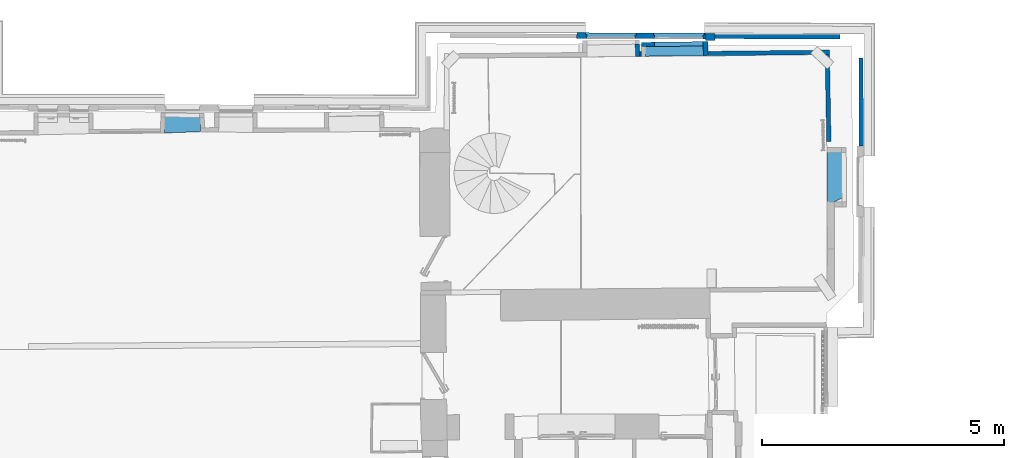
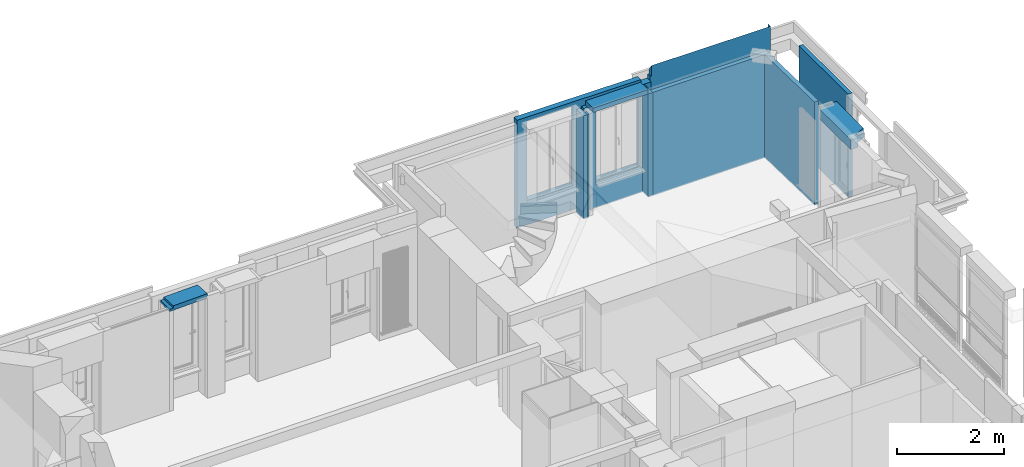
# One storey, part 24 of 72: 13 walls, 3 openings.
"""IFC2X3 building model written with IfcOpenShell, lengths in centimetres."""

from ifc_helpers import new_model, entity, si_unit, converted_unit, direction, frame, origin, origin_with_axes, origin_2d_with_axis, place, context, subcontext, project, spatial, polyline, rectangle, outline, extrude, clip, bounded_halfspace, faceted_brep, shape, material, layer, layer_set, layer_usage, type_object, element, save


model = new_model("IFC2X3")

# Units and contexts
model_context = context("Model", 3, precision=0.0001, world=origin(), true_north=direction((0.225632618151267, 0.974212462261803, 0.0)))
body_context = subcontext(model_context, "Body", "Model", "MODEL_VIEW")
footprint_context = subcontext(model_context, "FootPrint", "Model", "MODEL_VIEW")
profile_context = subcontext(model_context, "Profile", "Model", "MODEL_VIEW")
ifc_project = project(units=[si_unit("LENGTHUNIT", "METRE", prefix="CENTI"), si_unit("AREAUNIT", "SQUARE_METRE", prefix="CENTI"), si_unit("VOLUMEUNIT", "CUBIC_METRE", prefix="CENTI"), converted_unit("PLANEANGLEUNIT", "DEGREE", entity("IfcRatioMeasure", 0.0174532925), si_unit("PLANEANGLEUNIT", "RADIAN"), dimensions=[0, 0, 0, 0, 0, 0, 0])], contexts=[model_context])

# Site, building, storey
site_placement = place(None, origin_with_axes())
site = spatial("IfcSite", under=ifc_project, at=site_placement, Name="Default Site", CompositionType="ELEMENT")
building_placement = place(site_placement, origin_with_axes())
building = spatial("IfcBuilding", under=site, at=building_placement, Name="Default Building", CompositionType="ELEMENT")
storey_placement = place(building_placement, frame((0.0, 0.0, 853.910374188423), z_axis=(0.0, 0.0, 1.0), x_axis=(1.0, 0.0, 0.0)))
storey = spatial("IfcBuildingStorey", under=building, at=storey_placement, Name="Niveau 2", CompositionType="ELEMENT", Elevation=853.910374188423)

# Walls
ifc_material = material(Name="<aucun>")
ifc_layer_1 = layer(ifc_material, 9.0)
ifc_layer_set_1 = layer_set([ifc_layer_1], Name="default")
ifc_layer_usage_1 = layer_usage(ifc_layer_set_1, "AXIS2", "POSITIVE", -4.5)
wall_type_1 = type_object("IfcWallType", Name="default 90", PredefinedType="NOTDEFINED", material=ifc_layer_set_1)
wall_1_placement = place(storey_placement, frame((1145.18182000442, 525.971234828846, -1.95399252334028e-11), z_axis=(0.0, 0.0, 1.0), x_axis=(-0.00385021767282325, 0.999992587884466, 0.0)))
element("IfcWallStandardCase", 1, at=wall_1_placement, inside=storey, type_object=wall_type_1, material=ifc_layer_usage_1, Name="Enveloppe 463583", context=body_context, shape_type="SweptSolid", body=[
    extrude(rectangle(XDim=8.9999955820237, YDim=182.306273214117, at=origin_2d_with_axis()), frame((91.1877773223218, 2.86267596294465e-06, 1.98951966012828e-11), z_axis=(0.0, 0.0, 1.0), x_axis=(-0.000129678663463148, -0.999999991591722, 0.0)), (0.0, 0.0, 1.0), 234.999999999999),
])
ifc_layer_usage_2 = layer_usage(ifc_layer_set_1, "AXIS2", "POSITIVE", -4.5)
wall_2_placement = place(storey_placement, frame((1101.58579379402, 751.852301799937, -1.95399252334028e-11), z_axis=(0.0, 0.0, 1.0), x_axis=(-0.9999942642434, 0.0033869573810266, 0.0)))
solid = clip(clip(clip(clip(clip(clip(clip(clip(extrude(rectangle(XDim=8.99999999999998, YDim=258.4143205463, at=origin_2d_with_axis()), frame((129.238549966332, 0.000156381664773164, 2.00728322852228e-11), z_axis=(0.0, 0.0, 1.0), x_axis=(0.0, -1.0, 0.0)), (0.0, 0.0, 1.0), 268.938855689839), bounded_halfspace(frame((258.35336731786, 4.49999999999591, 235.000000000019), z_axis=(0.0, 0.0, 1.0), x_axis=(1.0, 4.99341453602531e-13, 0.0)), True, frame((258.35336731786, 4.49999999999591, 235.000000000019), z_axis=(0.0, 0.0, 1.0), x_axis=(1.0, 0.0, 0.0)), polyline([(1.77635683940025e-13, -8.9999999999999), (1.77635683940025e-13, 0.0), (0.0923439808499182, -8.88178419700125e-14), (0.0923439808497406, -8.9999999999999), (1.77635683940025e-13, -8.9999999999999)]))), bounded_halfspace(frame((247.127500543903, 4.499999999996, 268.510598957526), z_axis=(-0.000928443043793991, 0.844411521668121, -0.535694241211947), x_axis=(0.000330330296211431, -0.535694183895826, -0.844412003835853)), True, frame((247.127500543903, 4.499999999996, 268.510598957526), z_axis=(0.0, 0.0, 1.0), x_axis=(1.0, 0.0, 0.0)), polyline([(0.00554975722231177, -8.99999999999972), (8.67745203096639, -9.00000000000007), (8.65441892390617, -8.88178419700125e-14), (3.5527136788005e-13, -8.88178419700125e-14), (0.00554975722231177, -8.99999999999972)]))), bounded_halfspace(frame((0.0313896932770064, 4.4999999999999, 268.938855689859), z_axis=(-0.000928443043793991, 0.844411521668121, -0.535694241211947), x_axis=(0.00156870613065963, 0.535695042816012, 0.844410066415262)), True, frame((0.0313896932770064, 4.4999999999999, 268.938855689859), z_axis=(0.0, 0.0, 1.0), x_axis=(1.0, 0.0, 0.0)), polyline([(0.0, -9.00000000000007), (0.0263552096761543, 8.88178419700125e-14), (0.0, -8.88178419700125e-14), (0.0, -9.00000000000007)]))), bounded_halfspace(frame((232.822617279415, 3.81789347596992, 267.460191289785), z_axis=(-0.000928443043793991, 0.844411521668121, -0.535694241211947), x_axis=(0.999998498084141, 6.82377331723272e-13, -0.00173315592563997)), True, frame((232.822617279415, 3.81789347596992, 267.460191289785), z_axis=(0.0, 0.0, 1.0), x_axis=(1.0, 0.0, 0.0)), polyline([(-1.77635683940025e-13, -8.31789347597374), (14.3104330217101, -8.31789347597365), (14.3053297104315, -0.0418915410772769), (1.77635683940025e-13, 0.0), (-1.77635683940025e-13, -8.31789347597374)]))), bounded_halfspace(frame((0.0445659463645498, -0.000461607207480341, 261.844783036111), z_axis=(-0.000928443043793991, 0.844411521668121, -0.535694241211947), x_axis=(0.999998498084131, -1.00739351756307e-11, -0.00173315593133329)), True, frame((0.0445659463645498, -0.000461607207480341, 261.844783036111), z_axis=(0.0, 0.0, 1.0), x_axis=(1.0, 0.0, 0.0)), polyline([(-0.0131762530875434, -4.49953839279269), (-1.36509825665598e-07, -4.49953839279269), (1.77635683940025e-13, 0.0), (-0.0131762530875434, -4.49953839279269)]))), bounded_halfspace(frame((0.0577449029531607, 4.49999999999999, 268.938810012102), z_axis=(-0.000928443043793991, 0.844411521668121, -0.535694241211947), x_axis=(-0.999975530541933, 0.00293038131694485, 0.00635225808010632)), True, frame((0.0577449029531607, 4.49999999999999, 268.938810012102), z_axis=(0.0, 0.0, 1.0), x_axis=(1.0, 0.0, 0.0)), polyline([(-0.0131790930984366, -9.00000000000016), (232.764872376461, -9.0000000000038), (232.764872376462, -0.682106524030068), (0.0, 0.0), (-0.0131790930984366, -9.00000000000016)]))), bounded_halfspace(frame((0.0577449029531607, 4.49999999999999, 268.938810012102), z_axis=(-0.000928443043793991, 0.844411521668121, -0.535694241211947), x_axis=(0.999975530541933, -0.00293038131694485, -0.00635225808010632)), True, frame((0.0577449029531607, 4.49999999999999, 268.938810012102), z_axis=(0.0, 0.0, 1.0), x_axis=(1.0, 0.0, 0.0)), polyline([(0.0, 0.0), (247.070202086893, -0.723998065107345), (247.06975564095, -4.08562073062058e-12), (0.0, 0.0)]))), bounded_halfspace(frame((258.35336731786, 4.49999999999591, 245.000000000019), z_axis=(0.0, 0.0, -1.0), x_axis=(-1.0, -6.357327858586e-15, 0.0)), True, frame((258.35336731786, 4.49999999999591, 245.000000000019), z_axis=(0.0, 0.0, 1.0), x_axis=(1.0, 0.0, 0.0)), polyline([(-2.5714478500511, 0.0), (-2.54841474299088, -8.99999999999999), (1.77635683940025e-13, -8.9999999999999), (1.77635683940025e-13, 0.0), (-2.5714478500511, 0.0)])))
element("IfcWallStandardCase", 2, at=wall_2_placement, inside=storey, type_object=wall_type_1, material=ifc_layer_usage_2, Name="Enveloppe 463685", context=body_context, shape_type="Clipping", body=[
    clip(solid, bounded_halfspace(frame((258.35336731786, -4.50000000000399, 245.000000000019), z_axis=(0.0, 0.0, -1.0), x_axis=(1.0, -4.62468605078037e-13, 0.0)), True, frame((258.35336731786, -4.50000000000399, 245.000000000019), z_axis=(0.0, 0.0, 1.0), x_axis=(1.0, 0.0, 0.0)), polyline([(1.77635683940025e-13, 0.0), (0.0923439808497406, 0.0), (0.0923439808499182, 8.99999999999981), (1.77635683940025e-13, 8.9999999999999), (1.77635683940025e-13, 0.0)]))),
])
ifc_layer_usage_3 = layer_usage(ifc_layer_set_1, "AXIS2", "POSITIVE", -4.5)
wall_3_placement = place(storey_placement, frame((682.886872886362, 712.396064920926, 1.4210854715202e-12), z_axis=(0.0, 0.0, 1.0), x_axis=(-0.026493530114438, 0.999648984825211, 0.0)))
element("IfcWallStandardCase", 3, at=wall_3_placement, inside=storey, type_object=wall_type_1, material=ifc_layer_usage_3, Name="Enveloppe 177735", context=body_context, shape_type="SweptSolid", body=[
    extrude(outline(polyline([(24.482831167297, 4.4999999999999), (-0.707261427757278, 4.50000000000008), (-0.857965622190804, -4.50000000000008), (24.3844119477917, -4.4999999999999), (24.482831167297, 4.4999999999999)])), frame((0.0, 0.0, -8.88178419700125e-13), z_axis=(0.0, 0.0, 1.0), x_axis=(1.0, 0.0, 0.0)), (0.0, 0.0, 1.0), 234.999999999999),
])
ifc_layer_usage_4 = layer_usage(ifc_layer_set_1, "AXIS2", "POSITIVE", -4.5)
wall_4_placement = place(storey_placement, frame((678.113645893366, 716.067181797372, 1.4210854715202e-12), z_axis=(0.0, 0.0, 1.0), x_axis=(0.999952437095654, 0.00975313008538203, 0.0)))
element("IfcWallStandardCase", 4, at=wall_4_placement, inside=storey, type_object=wall_type_1, material=ifc_layer_usage_4, Name="Enveloppe 178562", context=body_context, shape_type="SweptSolid", body=[
    extrude(outline(polyline([(9.10022468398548, 4.49999999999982), (9.25092887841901, -4.50000000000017), (12.6027819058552, -4.50000000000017), (12.6027819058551, 4.49999999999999), (9.10022468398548, 4.49999999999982)])), frame((0.0, 0.0, 5.32907051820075e-13), z_axis=(0.0, 0.0, 1.0), x_axis=(1.0, 0.0, 0.0)), (0.0, 0.0, 1.0), 234.999999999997),
])

# Wall, opening
ifc_layer_usage_5 = layer_usage(ifc_layer_set_1, "AXIS2", "POSITIVE", -4.5)
wall_5_placement = place(storey_placement, frame((699.879282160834, 736.158901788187, 1.06581410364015e-12), z_axis=(0.0, 0.0, 1.0), x_axis=(0.999926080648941, 0.0121586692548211, 0.0)))
wall_5 = element("IfcWallStandardCase", 5, at=wall_5_placement, inside=storey, type_object=wall_type_1, material=ifc_layer_usage_5, Name="Enveloppe 177846", context=body_context, shape_type="SweptSolid", body=[
    extrude(outline(polyline([(-9.11544507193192, -4.49999999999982), (118.481027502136, -4.4999999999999), (118.496048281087, 4.50000000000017), (-8.88389420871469, 4.50000000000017), (-9.11544507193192, -4.49999999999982)])), origin_with_axes(), (0.0, 0.0, 1.0), 234.999999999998),
])
opening_1_placement = place(wall_5_placement, frame((17.5208397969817, 0.0, 54.9999999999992), z_axis=(0.0, 0.0, 1.0), x_axis=(-1.0, -8.32667268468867e-16, 0.0)))
cartesian_point_1 = entity("IfcCartesianPoint", [0.0, -8.88178419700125e-14, 170.0])
cartesian_point_2 = entity("IfcCartesianPoint", [-100.84034085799, -4.50000000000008])
element("IfcOpeningElement", 6, at=opening_1_placement, cuts=wall_5, Name="4294966528_11", ObjectType="Opening", shapes=[
    shape(body_context, "Body", "SweptSolid", [extrude(outline(polyline([(-8.88178419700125e-14, 170.0), (-8.88178419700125e-14, -2.99999999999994), (100.84034085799, -2.99999999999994), (100.84034085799, 170.0), (-8.88178419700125e-14, 170.0)])), frame((0.0, -14.5, 0.0), z_axis=(0.0, 1.0, 0.0), x_axis=(-1.0, 0.0, 0.0)), (0.0, 0.0, 1.0), 29.0)]),
    shape(profile_context, "Profile", "GeometricCurveSet", [entity("IfcGeometricCurveSet", [entity("IfcPolyline", [cartesian_point_1, entity("IfcCartesianPoint", [0.0, -8.88178419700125e-14, 0.0]), entity("IfcCartesianPoint", [-100.84034085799, -8.88178419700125e-14, 0.0]), entity("IfcCartesianPoint", [-100.84034085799, -8.88178419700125e-14, 170.0]), cartesian_point_1])])]),
    shape(footprint_context, "FootPrint", "GeometricCurveSet", [entity("IfcGeometricCurveSet", [entity("IfcPolyline", [cartesian_point_2, entity("IfcCartesianPoint", [8.88178419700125e-14, -4.50000000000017]), entity("IfcCartesianPoint", [8.88178419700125e-14, 4.49999999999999]), entity("IfcCartesianPoint", [-100.840340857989, 4.4999999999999]), cartesian_point_2])])]),
])

# Walls
ifc_layer_usage_6 = layer_usage(ifc_layer_set_1, "AXIS2", "POSITIVE", -4.5)
wall_6_placement = place(storey_placement, frame((828.5723250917, 717.400266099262, 1.06581410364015e-12), z_axis=(0.0, 0.0, 1.0), x_axis=(0.999946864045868, 0.0103086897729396, 0.0)))
element("IfcWallStandardCase", 7, at=wall_6_placement, inside=storey, type_object=wall_type_1, material=ifc_layer_usage_6, Name="Enveloppe 149961", context=body_context, shape_type="SweptSolid", body=[
    extrude(outline(polyline([(-0.00163010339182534, 4.49999999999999), (-0.00163010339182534, -4.50000000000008), (250.82751742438, -4.50000000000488), (250.756113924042, 4.49999999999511), (-0.00163010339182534, 4.49999999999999)])), frame((0.0, 0.0, -7.105427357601e-13), z_axis=(0.0, 0.0, 1.0), x_axis=(1.0, 0.0, 0.0)), (0.0, 0.0, 1.0), 234.999999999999),
])
ifc_layer_usage_7 = layer_usage(ifc_layer_set_1, "AXIS2", "POSITIVE", -4.5)
wall_7_placement = place(storey_placement, frame((1078.21979787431, 535.286601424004, 1.4210854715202e-12), z_axis=(0.0, 0.0, 1.0), x_axis=(-0.0182414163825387, 0.999833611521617, 0.0)))
element("IfcWallStandardCase", 8, at=wall_7_placement, inside=storey, type_object=wall_type_1, material=ifc_layer_usage_7, Name="Enveloppe 150023", context=body_context, shape_type="SweptSolid", body=[
    extrude(outline(polyline([(180.218898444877, 4.50000000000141), (0.0, 4.49999999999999), (0.0, -4.50000000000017), (180.147494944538, -4.49999999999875), (180.218898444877, 4.50000000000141)])), frame((0.0, 0.0, 1.77635683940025e-13), z_axis=(0.0, 0.0, 1.0), x_axis=(1.0, 0.0, 0.0)), (0.0, 0.0, 1.0), 234.999999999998),
])

# Wall, openings
ifc_layer_2 = layer(ifc_material, 12.0)
ifc_layer_set_2 = layer_set([ifc_layer_2], Name="default")
ifc_layer_usage_8 = layer_usage(ifc_layer_set_2, "AXIS2", "POSITIVE", -6.0)
wall_type_2 = type_object("IfcWallType", Name="default 120", PredefinedType="NOTDEFINED", material=ifc_layer_set_2)
wall_8_placement = place(storey_placement, frame((823.225667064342, 753.763191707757, -1.95399252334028e-11), z_axis=(0.0, 0.0, 1.0), x_axis=(-0.999996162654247, 0.00277032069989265, 0.0)))
wall_8 = element("IfcWallStandardCase", 9, at=wall_8_placement, inside=storey, type_object=wall_type_2, material=ifc_layer_usage_8, Name="Enveloppe 734961", context=body_context, shape_type="Clipping", body=[
    clip(extrude(rectangle(XDim=12.0, YDim=266.272513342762, at=origin_2d_with_axis()), frame((133.136256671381, -3.5527136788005e-13, 1.95399252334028e-11), z_axis=(0.0, 0.0, 1.0), x_axis=(-4.33680868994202e-19, -1.0, 0.0)), (0.0, 0.0, 1.0), 244.999999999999), bounded_halfspace(frame((1.77635683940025e-13, -6.00000000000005, 235.000000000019), z_axis=(0.0, 0.0, 1.0), x_axis=(-9.1547429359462e-14, 1.0, 0.0)), True, frame((1.77635683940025e-13, -6.00000000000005, 235.000000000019), z_axis=(0.0, 0.0, 1.0), x_axis=(1.0, 0.0, 0.0)), polyline([(1.77635683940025e-13, 0.0), (1.77635683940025e-13, 11.9999999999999), (0.55107363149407, 11.9999999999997), (0.551073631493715, 0.0), (1.77635683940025e-13, 0.0)]))),
])
opening_2_placement = place(wall_8_placement, frame((2.49478627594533, 2.27373675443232e-13, 49.8341513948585), z_axis=(0.0, 0.0, 1.0), x_axis=(-1.0, 2.62767238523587e-15, 0.0)))
cartesian_point_3 = entity("IfcCartesianPoint", [3.5527136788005e-13, 8.88178419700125e-14, 184.527319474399])
cartesian_point_4 = entity("IfcCartesianPoint", [-105.547886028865, -5.99999999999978])
element("IfcOpeningElement", 10, at=opening_2_placement, cuts=wall_8, Name="Baie 736907", ObjectType="Opening", shapes=[
    shape(body_context, "Body", "Brep", [faceted_brep([(-2.99997236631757, -25.9999836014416, 184.527283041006), (-102.547883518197, -25.9999836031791, 184.527283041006), (-102.547883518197, -25.9999836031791, -1.87473244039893e-05), (-2.99997236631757, -25.9999836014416, -1.87473244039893e-05), (-3.93373086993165e-05, 25.9999894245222, -1.87473244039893e-05), (-105.547872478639, 25.99998942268, -1.87473244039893e-05), (-105.547872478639, 25.99998942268, 184.527283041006), (-3.93373086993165e-05, 25.9999894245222, 184.527283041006), (-2.99997236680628, 2.00000167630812, -1.87473244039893e-05), (-2.99997236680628, 2.00000167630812, 184.527283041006), (-3.00000758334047, 2.00000167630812, 184.527283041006), (-3.00000758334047, 2.00000167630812, -1.87473244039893e-05), (-2.28128980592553e-05, 2.00000167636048, -1.87473244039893e-05), (-2.28128980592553e-05, 2.00000167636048, 184.527283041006), (-2.28128980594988e-05, 2.00001562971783, 184.527283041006), (-2.28128980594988e-05, 2.00001562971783, -1.87473244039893e-05), (-2.28133169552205e-05, 25.9999894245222, -1.87473244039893e-05), (-2.28133169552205e-05, 25.9999894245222, 184.527283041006), (-102.547883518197, -26.0000083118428, -1.87473244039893e-05), (-102.547871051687, 1.99997709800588, -1.87473244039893e-05), (-105.547903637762, 2.00001069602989, -1.87473244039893e-05), (-105.547872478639, 25.9999846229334, -1.87473244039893e-05), (-102.547883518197, -26.0000083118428, 184.527283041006), (-102.547883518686, 1.99997709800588, 184.527283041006), (-102.547883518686, 1.99997709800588, -1.87473244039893e-05), (-102.547871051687, 1.99997709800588, 184.527283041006), (-105.547903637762, 1.99997709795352, 184.527283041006), (-105.547903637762, 1.99997709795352, -1.87473244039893e-05), (-105.547903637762, 2.00001069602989, 184.527283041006), (-105.547903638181, 25.9999846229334, 184.527283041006), (-105.547903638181, 25.9999846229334, -1.87473244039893e-05), (-105.547872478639, 25.9999846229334, 184.527283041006)], [[[0, 1, 2, 3]], [[4, 5, 6, 7]], [[0, 3, 8, 9]], [[10, 11, 12, 13]], [[14, 15, 16, 17]], [[3, 18, 19, 20, 21, 4, 15, 11]], [[18, 22, 23, 24]], [[19, 25, 26, 27]], [[20, 28, 29, 30]], [[10, 14, 7, 31, 28, 25, 22, 0]]])]),
    shape(profile_context, "Profile", "GeometricCurveSet", [entity("IfcGeometricCurveSet", [entity("IfcPolyline", [cartesian_point_3, entity("IfcCartesianPoint", [3.5527136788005e-13, 8.88178419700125e-14, 0.0]), entity("IfcCartesianPoint", [-105.547886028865, 1.77635683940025e-13, 0.0]), entity("IfcCartesianPoint", [-105.547886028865, 1.77635683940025e-13, 184.527319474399]), cartesian_point_3])])]),
    shape(footprint_context, "FootPrint", "GeometricCurveSet", [entity("IfcGeometricCurveSet", [entity("IfcPolyline", [cartesian_point_4, entity("IfcCartesianPoint", [5.32907051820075e-13, -5.99999999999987]), entity("IfcCartesianPoint", [3.5527136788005e-13, 6.00000000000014]), entity("IfcCartesianPoint", [-105.547886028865, 6.00000000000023]), cartesian_point_4])])]),
])
opening_3_placement = place(wall_8_placement, frame((142.964138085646, -3.41060513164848e-13, 55.0000000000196), z_axis=(0.0, 0.0, 1.0), x_axis=(-1.0, 2.62767238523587e-15, 0.0)))
cartesian_point_5 = entity("IfcCartesianPoint", [3.5527136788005e-13, 8.88178419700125e-14, 180.00001475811])
cartesian_point_6 = entity("IfcCartesianPoint", [-104.877018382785, -5.99999999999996])
element("IfcOpeningElement", 11, at=opening_3_placement, cuts=wall_8, Name="Baie 736908", ObjectType="Opening", shapes=[
    shape(body_context, "Body", "Brep", [faceted_brep([(-2.99999542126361, -25.9999820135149, 180.00001475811), (-101.877041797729, -25.9999820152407, 180.00001475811), (-101.877041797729, -25.9999820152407, -4.31537632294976e-06), (-2.99999542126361, -25.9999820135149, -4.31537632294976e-06), (-1.47087218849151e-05, 25.999991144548, -4.31537632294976e-06), (-104.877030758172, 25.9999911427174, -4.31537632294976e-06), (-104.877030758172, 25.9999911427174, 180.00001475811), (-1.47087218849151e-05, 25.999991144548, 180.00001475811), (-2.99999542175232, 2.00000339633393, -4.31537632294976e-06), (-2.99999542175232, 2.00000339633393, 180.00001475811), (-2.99998295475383, 2.00000339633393, 180.00001475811), (-2.99998295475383, 2.00000339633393, -4.31537632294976e-06), (1.81568866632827e-06, 2.00000339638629, -4.31537632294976e-06), (1.81568866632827e-06, 2.00000339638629, 180.00001475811), (1.81568866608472e-06, 2.00001734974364, 180.00001475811), (1.81568866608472e-06, 2.00001734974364, -4.31537632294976e-06), (1.81526977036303e-06, 25.999991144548, -4.31537632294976e-06), (1.81526977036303e-06, 25.999991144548, 180.00001475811), (-101.877041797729, -26.0000078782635, -4.31537632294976e-06), (-101.877029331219, 1.99997753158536, -4.31537632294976e-06), (-104.877014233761, 2.00001126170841, -4.31537632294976e-06), (-104.877030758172, 25.9999850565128, -4.31537632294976e-06), (-101.877041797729, -26.0000078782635, 180.00001475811), (-101.877041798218, 1.99997753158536, 180.00001475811), (-101.877041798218, 1.99997753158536, -4.31537632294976e-06), (-101.877029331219, 1.99997753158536, 180.00001475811), (-104.877014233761, 1.999977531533, 180.00001475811), (-104.877014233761, 1.999977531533, -4.31537632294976e-06), (-104.877014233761, 2.00001126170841, 180.00001475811), (-104.87701423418, 25.9999850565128, 180.00001475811), (-104.87701423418, 25.9999850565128, -4.31537632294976e-06), (-104.877030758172, 25.9999850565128, 180.00001475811)], [[[0, 1, 2, 3]], [[4, 5, 6, 7]], [[0, 3, 8, 9]], [[10, 11, 12, 13]], [[14, 15, 16, 17]], [[3, 18, 19, 20, 21, 4, 15, 11]], [[18, 22, 23, 24]], [[19, 25, 26, 27]], [[20, 28, 29, 30]], [[10, 14, 7, 31, 28, 25, 22, 0]]])]),
    shape(profile_context, "Profile", "GeometricCurveSet", [entity("IfcGeometricCurveSet", [entity("IfcPolyline", [cartesian_point_5, entity("IfcCartesianPoint", [3.5527136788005e-13, 8.88178419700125e-14, -1.77635683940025e-13]), entity("IfcCartesianPoint", [-104.877018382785, 8.88178419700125e-14, -1.77635683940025e-13]), entity("IfcCartesianPoint", [-104.877018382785, 8.88178419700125e-14, 180.00001475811]), cartesian_point_5])])]),
    shape(footprint_context, "FootPrint", "GeometricCurveSet", [entity("IfcGeometricCurveSet", [entity("IfcPolyline", [cartesian_point_6, entity("IfcCartesianPoint", [2.66453525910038e-13, -5.99999999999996]), entity("IfcCartesianPoint", [2.66453525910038e-13, 6.00000000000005]), entity("IfcCartesianPoint", [-104.877018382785, 6.00000000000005]), cartesian_point_6])])]),
])

# Walls
ifc_layer_3 = layer(ifc_material, 10.0)
ifc_layer_set_3 = layer_set([ifc_layer_3], Name="default")
ifc_layer_usage_9 = layer_usage(ifc_layer_set_3, "AXIS2", "POSITIVE", -5.0)
wall_type_3 = type_object("IfcWallType", Name="default 100", PredefinedType="NOTDEFINED", material=ifc_layer_set_3)
wall_9_placement = place(storey_placement, frame((823.618989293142, 712.848056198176, 1.4210854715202e-12), z_axis=(0.0, 0.0, 1.0), x_axis=(-0.010489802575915, 0.999944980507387, 0.0)))
element("IfcWallStandardCase", 12, at=wall_9_placement, inside=storey, type_object=wall_type_3, material=ifc_layer_usage_9, Name="Enveloppe 177845", context=body_context, shape_type="SweptSolid", body=[
    extrude(outline(polyline([(29.3053285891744, 4.99999999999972), (0.00181122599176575, 5.00000000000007), (2.95248536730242e-07, -4.99836989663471), (29.3220183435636, -4.99999999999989), (29.3053285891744, 4.99999999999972)])), frame((0.0, 0.0, -3.5527136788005e-13), z_axis=(0.0, 0.0, 1.0), x_axis=(1.0, 0.0, 0.0)), (0.0, 0.0, 1.0), 234.999999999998),
])
ifc_layer_4 = layer(ifc_material, 15.0)
ifc_layer_set_4 = layer_set([ifc_layer_4], Name="default")
ifc_layer_usage_10 = layer_usage(ifc_layer_set_4, "AXIS2", "POSITIVE", -7.5)
wall_type_4 = type_object("IfcWallType", Name="default 150", PredefinedType="NOTDEFINED", material=ifc_layer_set_4)
wall_10_placement = place(storey_placement, frame((843.134889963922, 751.605187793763, -1.95399252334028e-11), z_axis=(0.0, 0.0, 1.0), x_axis=(-0.999996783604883, 0.00253629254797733, 0.0)))
element("IfcWallStandardCase", 13, at=wall_10_placement, inside=storey, type_object=wall_type_4, material=ifc_layer_usage_10, Name="Enveloppe 461312", context=body_context, shape_type="SweptSolid", body=[
    extrude(outline(polyline([(20.4671099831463, 7.49999999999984), (0.0, 7.49999999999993), (-7.93263943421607e-07, 3.37783920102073), (-0.092343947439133, 3.37760499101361), (-0.0999999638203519, -5.62239175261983), (-8.59031423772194e-07, -5.62213812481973), (0.0, -7.5000000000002), (19.9133701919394, -7.5000000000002), (19.9132280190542, -8.10750119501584), (20.464301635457, -8.10763016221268), (20.4671099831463, 7.49999999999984)])), frame((0.0, 0.0, 1.98951966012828e-11), z_axis=(0.0, 0.0, 1.0), x_axis=(1.0, 0.0, 0.0)), (0.0, 0.0, 1.0), 234.999999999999),
])
ifc_layer_5 = layer(ifc_material, 40.0)
ifc_layer_set_5 = layer_set([ifc_layer_5], Name="default")
ifc_layer_usage_11 = layer_usage(ifc_layer_set_5, "AXIS2", "POSITIVE", -20.0)
wall_type_5 = type_object("IfcWallType", Name="default 400", PredefinedType="NOTDEFINED", material=ifc_layer_set_5)
wall_11_placement = place(storey_placement, frame((1094.13882671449, 422.993474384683, 208.000000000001), z_axis=(0.0, 0.0, 1.0), x_axis=(-0.00227178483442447, 0.999997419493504, 0.0)))
element("IfcWallStandardCase", 14, at=wall_11_placement, inside=storey, type_object=wall_type_5, material=ifc_layer_usage_11, Name="Enveloppe 180171", context=body_context, shape_type="SweptSolid", body=[
    extrude(outline(polyline([(90.247527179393, 20.0000003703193), (8.88178419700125e-14, 20.0000000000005), (-22.4492762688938, 19.7832181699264), (-22.3044352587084, 4.78391748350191), (-12.0787172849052, 4.44169425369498), (0.0, -19.9999999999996), (99.7214741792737, -19.9999999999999), (100.231342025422, 18.6787382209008), (90.232210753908, 18.8105479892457), (90.247527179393, 20.0000003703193)])), frame((0.0, 0.0, 8.88178419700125e-13), z_axis=(0.0, 0.0, 1.0), x_axis=(1.0, 0.0, 0.0)), (0.0, 0.0, 1.0), 21.9999999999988),
])
ifc_layer_6 = layer(ifc_material, 28.0)
ifc_layer_set_6 = layer_set([ifc_layer_6], Name="default")
ifc_layer_usage_12 = layer_usage(ifc_layer_set_6, "AXIS2", "POSITIVE", -14.0)
wall_type_6 = type_object("IfcWallType", Name="default 280", PredefinedType="NOTDEFINED", material=ifc_layer_set_6)
wall_12_placement = place(storey_placement, frame((699.415315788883, 725.775401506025, 235.0), z_axis=(0.0, 0.0, 1.0), x_axis=(0.999952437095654, 0.00975313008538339, 0.0)))
element("IfcWallStandardCase", 15, at=wall_12_placement, inside=storey, type_object=wall_type_6, material=ifc_layer_usage_12, Name="Enveloppe 179560", context=body_context, shape_type="SweptSolid", body=[
    extrude(rectangle(XDim=119.071684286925, YDim=28.0000000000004, at=origin_2d_with_axis()), frame((59.5358421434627, 0.0, -1.77635683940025e-13), z_axis=(0.0, 0.0, 1.0), x_axis=(1.0, 2.81892564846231e-15, 0.0)), (0.0, 0.0, 1.0), 9.99999999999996),
])
ifc_layer_7 = layer(ifc_material, 34.0)
ifc_layer_set_7 = layer_set([ifc_layer_7], Name="default")
ifc_layer_usage_13 = layer_usage(ifc_layer_set_7, "AXIS2", "POSITIVE", -17.0)
wall_type_7 = type_object("IfcWallType", Name="default 340", PredefinedType="NOTDEFINED", material=ifc_layer_set_7)
wall_13_placement = place(storey_placement, frame((-295.574755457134, 570.06038104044, 230.000000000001), z_axis=(0.0, 0.0, 1.0), x_axis=(0.99931607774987, 0.0369780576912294, 0.0)))
element("IfcWallStandardCase", 16, at=wall_13_placement, inside=storey, type_object=wall_type_7, material=ifc_layer_usage_13, Name="Enveloppe 166728", context=body_context, shape_type="Clipping", body=[
    clip(clip(extrude(outline(polyline([(-8.23159939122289, -8.26867460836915), (-8.46700898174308, -16.7654141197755), (0.0, -17.0000000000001), (74.6039763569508, -17.0000000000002), (74.6039763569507, 16.9999999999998), (-6.80875744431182, 16.9999999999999), (-8.07381052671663, -8.27304628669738), (-8.23159939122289, -8.26867460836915)])), frame((0.0, 0.0, -3.5527136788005e-13), z_axis=(0.0, 0.0, 1.0), x_axis=(1.0, 0.0, 0.0)), (0.0, 0.0, 1.0), 10.0000000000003), bounded_halfspace(frame((74.6039763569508, -8.8743344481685, 4.99999999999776), z_axis=(0.0, 0.0, 1.0), x_axis=(-6.09234884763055e-15, -1.0, 0.0)), True, frame((74.6039763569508, -8.8743344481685, 4.99999999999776), z_axis=(0.0, 0.0, 1.0), x_axis=(1.0, 0.0, 0.0)), polyline([(-0.270492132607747, -8.1256655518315), (0.0, 0.0), (-2.22044604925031e-14, -8.1256655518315), (-0.270492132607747, -8.1256655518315)]))), bounded_halfspace(frame((-8.07381052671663, -8.27304628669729, 4.99999999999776), z_axis=(0.0, 0.0, -1.0), x_axis=(-0.999616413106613, 0.0276952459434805, 0.0)), True, frame((-8.07381052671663, -8.27304628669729, 4.99999999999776), z_axis=(0.0, 0.0, 1.0), x_axis=(1.0, 0.0, 0.0)), polyline([(-0.393198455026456, -8.49236783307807), (8.07381052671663, -8.72695371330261), (8.07381052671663, 25.2730462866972), (1.26505308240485, 25.2730462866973), (0.0, 0.0), (-0.157788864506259, 0.00437167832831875), (-0.393198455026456, -8.49236783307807)]))),
])

save(model, "model.ifc")
